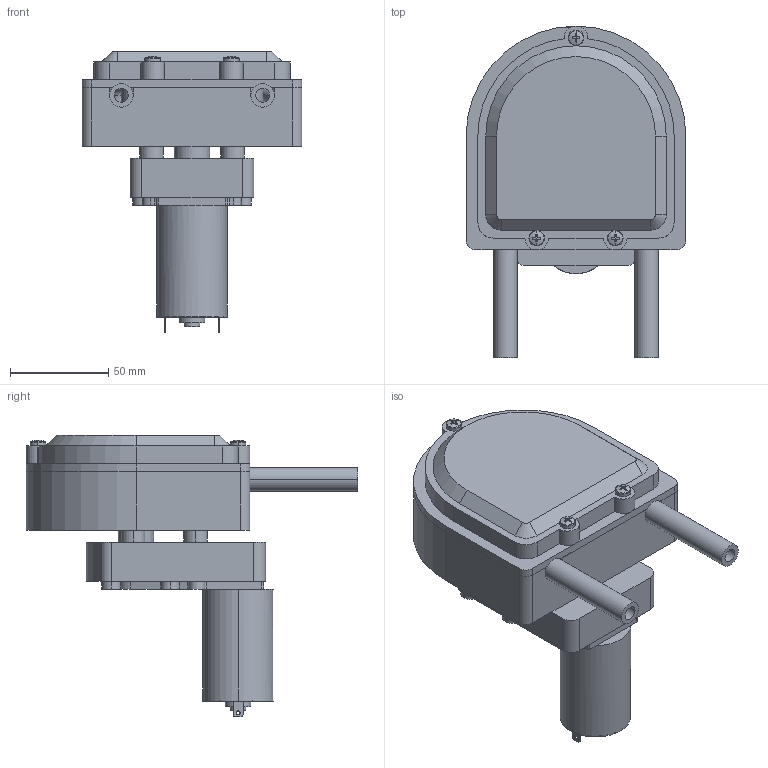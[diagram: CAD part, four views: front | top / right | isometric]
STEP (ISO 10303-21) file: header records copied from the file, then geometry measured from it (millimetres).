
FILE_DESCRIPTION (( 'STEP AP214' ), '1' );
FILE_NAME ('Verderflex M1500.STEP', '2016-03-03T14:41:52', ( '' ), ( '' ), 'SwSTEP 2.0', 'SolidWorks 2016', '' );
FILE_SCHEMA (( 'AUTOMOTIVE_DESIGN' ));
Length unit declared in the file: millimetre
Products named in the file (1): Verderflex M1500
Bounding box: 112 x 169 x 143.5 mm (x, y, z)
Volume: 458701.7 mm3; surface area: 159439.7 mm2
Topology: 8 solids, 8 shells, 404 faces, 998 edges, 652 vertices
Faces by surface type: cylinder 179, plane 172, torus 21, cone 20, sphere 12
Entity records: 13040 total; most frequent: DIRECTION 2343, CARTESIAN_POINT 2055, ORIENTED_EDGE 1996, EDGE_CURVE 998, AXIS2_PLACEMENT_3D 940, VERTEX_POINT 652, CIRCLE 535, EDGE_LOOP 466
